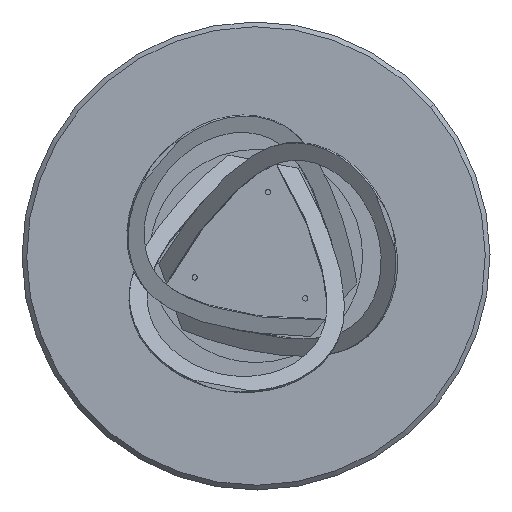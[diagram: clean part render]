
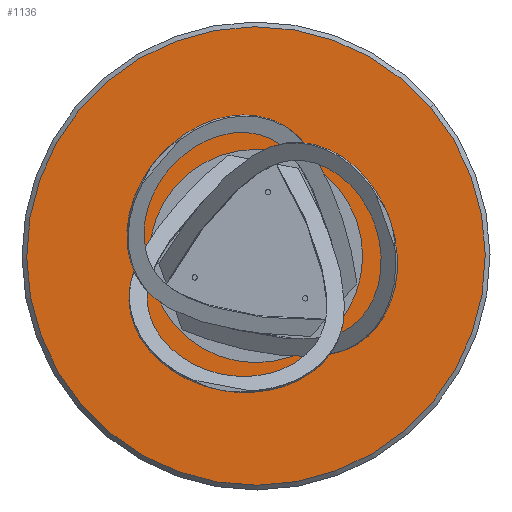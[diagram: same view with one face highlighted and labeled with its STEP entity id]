
A CAD part, front view. The second image highlights one B-rep face of the part: STEP entity #1136.
In plain terms, the highlighted planar face has unit normal (0, -1, 0).
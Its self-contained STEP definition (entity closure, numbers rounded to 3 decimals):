
#23 = PLANE ( 'NONE',  #34 ) ;
#34 = AXIS2_PLACEMENT_3D ( 'NONE', #1208, #42, #1451 ) ;
#42 = DIRECTION ( 'NONE',  ( 0., -1., 0. ) ) ;
#92 = VERTEX_POINT ( 'NONE', #2260 ) ;
#180 = AXIS2_PLACEMENT_3D ( 'NONE', #505, #2932, #760 ) ;
#196 = CARTESIAN_POINT ( 'NONE',  ( 0., 0., 0. ) ) ;
#505 = CARTESIAN_POINT ( 'NONE',  ( 0., 0., 0. ) ) ;
#760 = DIRECTION ( 'NONE',  ( 0., 0., -1. ) ) ;
#959 = ORIENTED_EDGE ( 'NONE', *, *, #1676, .T. ) ;
#960 = CARTESIAN_POINT ( 'NONE',  ( 0., 0., -387. ) ) ;
#996 = EDGE_LOOP ( 'NONE', ( #2580, #959 ) ) ;
#1009 = CIRCLE ( 'NONE', #180, 387. ) ;
#1086 = VERTEX_POINT ( 'NONE', #960 ) ;
#1117 = AXIS2_PLACEMENT_3D ( 'NONE', #196, #3145, #2892 ) ;
#1136 = ADVANCED_FACE ( 'NONE', ( #2247 ), #23, .T. ) ;
#1208 = CARTESIAN_POINT ( 'NONE',  ( 0., 0., 0. ) ) ;
#1451 = DIRECTION ( 'NONE',  ( 0., 0., -1. ) ) ;
#1676 = EDGE_CURVE ( 'NONE', #1086, #92, #1695, .T. ) ;
#1695 = CIRCLE ( 'NONE', #1117, 387. ) ;
#2247 = FACE_OUTER_BOUND ( 'NONE', #996, .T. ) ;
#2260 = CARTESIAN_POINT ( 'NONE',  ( 0., 0., 387. ) ) ;
#2580 = ORIENTED_EDGE ( 'NONE', *, *, #2873, .T. ) ;
#2873 = EDGE_CURVE ( 'NONE', #92, #1086, #1009, .T. ) ;
#2892 = DIRECTION ( 'NONE',  ( 0., 0., -1. ) ) ;
#2932 = DIRECTION ( 'NONE',  ( 0., -1., 0. ) ) ;
#3145 = DIRECTION ( 'NONE',  ( 0., -1., 0. ) ) ;
